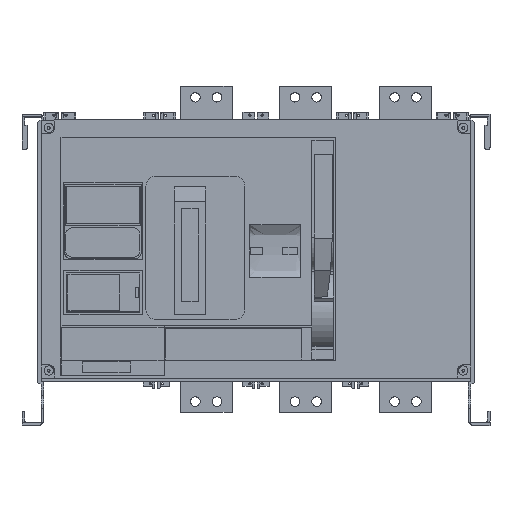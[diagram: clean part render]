
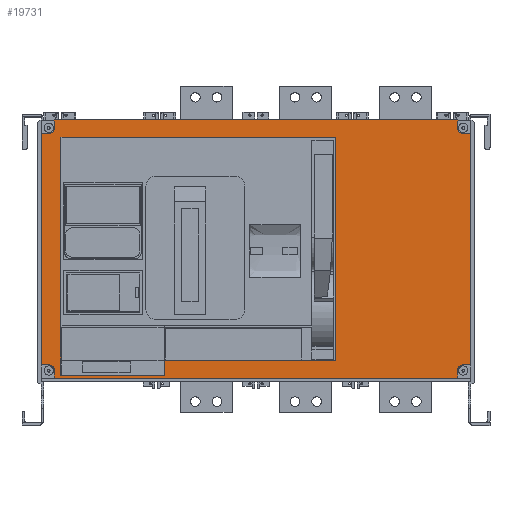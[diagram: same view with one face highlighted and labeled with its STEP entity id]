
A CAD part, top view. The second image highlights one B-rep face of the part: STEP entity #19731.
In plain terms, the highlighted planar face has unit normal (0, 0, 1).
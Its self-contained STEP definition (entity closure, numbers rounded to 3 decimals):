
#476=DIRECTION('',(0.,1.,0.));
#477=VECTOR('',#476,267.);
#478=CARTESIAN_POINT('',(518.,69.5,356.));
#479=LINE('',#478,#477);
#504=DIRECTION('',(1.,0.,0.));
#505=VECTOR('',#504,465.);
#506=CARTESIAN_POINT('',(37.5,54.,356.));
#507=LINE('',#506,#505);
#544=DIRECTION('',(0.,-1.,0.));
#545=VECTOR('',#544,267.);
#546=CARTESIAN_POINT('',(22.,336.5,356.));
#547=LINE('',#546,#545);
#572=DIRECTION('',(-1.,0.,0.));
#573=VECTOR('',#572,465.);
#574=CARTESIAN_POINT('',(502.5,352.,356.));
#575=LINE('',#574,#573);
#603=DIRECTION('',(-1.,0.,0.));
#604=VECTOR('',#603,9.);
#605=CARTESIAN_POINT('',(518.,336.5,356.));
#606=LINE('',#605,#604);
#611=CARTESIAN_POINT('',(31.,343.,356.));
#612=DIRECTION('',(0.,0.,1.));
#613=DIRECTION('',(0.,-1.,0.));
#614=AXIS2_PLACEMENT_3D('',#611,#612,#613);
#616=DIRECTION('',(0.,-1.,0.));
#617=VECTOR('',#616,9.);
#618=CARTESIAN_POINT('',(502.5,352.,356.));
#619=LINE('',#618,#617);
#620=CARTESIAN_POINT('',(509.,343.,356.));
#621=DIRECTION('',(0.,0.,1.));
#622=DIRECTION('',(-1.,0.,0.));
#623=AXIS2_PLACEMENT_3D('',#620,#621,#622);
#625=DIRECTION('',(-1.,0.,0.));
#626=VECTOR('',#625,9.);
#627=CARTESIAN_POINT('',(518.,69.5,356.));
#628=LINE('',#627,#626);
#629=CARTESIAN_POINT('',(509.,63.,356.));
#630=DIRECTION('',(0.,0.,1.));
#631=DIRECTION('',(0.,1.,0.));
#632=AXIS2_PLACEMENT_3D('',#629,#630,#631);
#634=DIRECTION('',(0.,1.,0.));
#635=VECTOR('',#634,9.);
#636=CARTESIAN_POINT('',(37.5,54.,356.));
#637=LINE('',#636,#635);
#638=CARTESIAN_POINT('',(31.,63.,356.));
#639=DIRECTION('',(0.,0.,1.));
#640=DIRECTION('',(1.,0.,0.));
#641=AXIS2_PLACEMENT_3D('',#638,#639,#640);
#643=DIRECTION('',(1.,0.,0.));
#644=VECTOR('',#643,9.);
#645=CARTESIAN_POINT('',(22.,336.5,356.));
#646=LINE('',#645,#644);
#647=DIRECTION('',(1.,0.,0.));
#648=VECTOR('',#647,197.024);
#649=CARTESIAN_POINT('',(164.727,74.209,356.));
#650=LINE('',#649,#648);
#651=DIRECTION('',(0.,1.,0.));
#652=VECTOR('',#651,40.54);
#653=CARTESIAN_POINT('',(361.751,74.209,356.));
#654=LINE('',#653,#652);
#655=DIRECTION('',(1.,0.,0.));
#656=VECTOR('',#655,0.209);
#657=CARTESIAN_POINT('',(361.751,114.75,356.));
#658=LINE('',#657,#656);
#659=DIRECTION('',(0.,1.,0.));
#660=VECTOR('',#659,217.25);
#661=CARTESIAN_POINT('',(361.96,114.75,356.));
#662=LINE('',#661,#660);
#663=DIRECTION('',(-1.,0.,0.));
#664=VECTOR('',#663,316.96);
#665=CARTESIAN_POINT('',(361.96,332.,356.));
#666=LINE('',#665,#664);
#667=DIRECTION('',(0.,-1.,0.));
#668=VECTOR('',#667,217.25);
#669=CARTESIAN_POINT('',(45.,332.,356.));
#670=LINE('',#669,#668);
#671=DIRECTION('',(0.,-1.,0.));
#672=VECTOR('',#671,57.24);
#673=CARTESIAN_POINT('',(45.,114.75,356.));
#674=LINE('',#673,#672);
#675=DIRECTION('',(1.,0.,0.));
#676=VECTOR('',#675,119.727);
#677=CARTESIAN_POINT('',(45.,57.51,356.));
#678=LINE('',#677,#676);
#679=DIRECTION('',(0.,1.,0.));
#680=VECTOR('',#679,16.7);
#681=CARTESIAN_POINT('',(164.727,57.51,356.));
#682=LINE('',#681,#680);
#714=DIRECTION('',(0.,-1.,0.));
#715=VECTOR('',#714,9.);
#716=CARTESIAN_POINT('',(37.5,352.,356.));
#717=LINE('',#716,#715);
#1063=DIRECTION('',(0.,1.,0.));
#1064=VECTOR('',#1063,9.);
#1065=CARTESIAN_POINT('',(502.5,54.,356.));
#1066=LINE('',#1065,#1064);
#1404=DIRECTION('',(1.,0.,0.));
#1405=VECTOR('',#1404,9.);
#1406=CARTESIAN_POINT('',(22.,69.5,356.));
#1407=LINE('',#1406,#1405);
#15133=CARTESIAN_POINT('',(518.,69.5,356.));
#15134=VERTEX_POINT('',#15133);
#15135=CARTESIAN_POINT('',(518.,336.5,356.));
#15136=VERTEX_POINT('',#15135);
#15165=CARTESIAN_POINT('',(37.5,54.,356.));
#15166=VERTEX_POINT('',#15165);
#15167=CARTESIAN_POINT('',(502.5,54.,356.));
#15168=VERTEX_POINT('',#15167);
#15273=CARTESIAN_POINT('',(164.727,74.209,356.));
#15274=VERTEX_POINT('',#15273);
#15275=CARTESIAN_POINT('',(164.727,57.51,356.));
#15276=VERTEX_POINT('',#15275);
#15403=CARTESIAN_POINT('',(45.,114.75,356.));
#15404=VERTEX_POINT('',#15403);
#15411=CARTESIAN_POINT('',(45.,57.51,356.));
#15412=VERTEX_POINT('',#15411);
#15653=CARTESIAN_POINT('',(31.,336.5,356.));
#15654=CARTESIAN_POINT('',(37.5,343.,356.));
#15655=VERTEX_POINT('',#15653);
#15656=VERTEX_POINT('',#15654);
#15657=CARTESIAN_POINT('',(37.5,352.,356.));
#15658=VERTEX_POINT('',#15657);
#15659=CARTESIAN_POINT('',(502.5,352.,356.));
#15660=VERTEX_POINT('',#15659);
#15661=CARTESIAN_POINT('',(502.5,343.,356.));
#15662=VERTEX_POINT('',#15661);
#15663=CARTESIAN_POINT('',(509.,336.5,356.));
#15664=VERTEX_POINT('',#15663);
#15665=CARTESIAN_POINT('',(509.,69.5,356.));
#15666=VERTEX_POINT('',#15665);
#15667=CARTESIAN_POINT('',(502.5,63.,356.));
#15668=VERTEX_POINT('',#15667);
#15669=CARTESIAN_POINT('',(37.5,63.,356.));
#15670=VERTEX_POINT('',#15669);
#15671=CARTESIAN_POINT('',(31.,69.5,356.));
#15672=VERTEX_POINT('',#15671);
#15673=CARTESIAN_POINT('',(22.,69.5,356.));
#15674=VERTEX_POINT('',#15673);
#15675=CARTESIAN_POINT('',(22.,336.5,356.));
#15676=VERTEX_POINT('',#15675);
#15677=CARTESIAN_POINT('',(361.751,74.209,356.));
#15678=VERTEX_POINT('',#15677);
#15679=CARTESIAN_POINT('',(361.751,114.75,356.));
#15680=VERTEX_POINT('',#15679);
#15681=CARTESIAN_POINT('',(361.96,114.75,356.));
#15682=VERTEX_POINT('',#15681);
#15683=CARTESIAN_POINT('',(361.96,332.,356.));
#15684=VERTEX_POINT('',#15683);
#15685=CARTESIAN_POINT('',(45.,332.,356.));
#15686=VERTEX_POINT('',#15685);
#19677=CARTESIAN_POINT('',(22.,352.,356.));
#19678=DIRECTION('',(0.,0.,1.));
#19679=DIRECTION('',(1.,0.,0.));
#19680=AXIS2_PLACEMENT_3D('',#19677,#19678,#19679);
#19681=PLANE('',#19680);
#19683=ORIENTED_EDGE('',*,*,#19682,.T.);
#19685=ORIENTED_EDGE('',*,*,#19684,.F.);
#19686=ORIENTED_EDGE('',*,*,#19608,.F.);
#19688=ORIENTED_EDGE('',*,*,#19687,.T.);
#19690=ORIENTED_EDGE('',*,*,#19689,.T.);
#19691=ORIENTED_EDGE('',*,*,#19661,.F.);
#19692=ORIENTED_EDGE('',*,*,#19480,.F.);
#19694=ORIENTED_EDGE('',*,*,#19693,.T.);
#19696=ORIENTED_EDGE('',*,*,#19695,.T.);
#19698=ORIENTED_EDGE('',*,*,#19697,.F.);
#19699=ORIENTED_EDGE('',*,*,#19536,.F.);
#19701=ORIENTED_EDGE('',*,*,#19700,.T.);
#19703=ORIENTED_EDGE('',*,*,#19702,.T.);
#19705=ORIENTED_EDGE('',*,*,#19704,.F.);
#19706=ORIENTED_EDGE('',*,*,#19577,.F.);
#19708=ORIENTED_EDGE('',*,*,#19707,.T.);
#19709=EDGE_LOOP('',(#19683,#19685,#19686,#19688,#19690,#19691,#19692,#19694,
#19696,#19698,#19699,#19701,#19703,#19705,#19706,#19708));
#19710=FACE_OUTER_BOUND('',#19709,.F.);
#19712=ORIENTED_EDGE('',*,*,#19711,.T.);
#19714=ORIENTED_EDGE('',*,*,#19713,.T.);
#19716=ORIENTED_EDGE('',*,*,#19715,.T.);
#19718=ORIENTED_EDGE('',*,*,#19717,.T.);
#19720=ORIENTED_EDGE('',*,*,#19719,.T.);
#19722=ORIENTED_EDGE('',*,*,#19721,.T.);
#19724=ORIENTED_EDGE('',*,*,#19723,.T.);
#19726=ORIENTED_EDGE('',*,*,#19725,.T.);
#19728=ORIENTED_EDGE('',*,*,#19727,.T.);
#19729=EDGE_LOOP('',(#19712,#19714,#19716,#19718,#19720,#19722,#19724,#19726,
#19728));
#19730=FACE_BOUND('',#19729,.F.);
#615=CIRCLE('',#614,6.5);
#624=CIRCLE('',#623,6.5);
#633=CIRCLE('',#632,6.5);
#642=CIRCLE('',#641,6.5);
#19480=EDGE_CURVE('',#15134,#15136,#479,.T.);
#19536=EDGE_CURVE('',#15166,#15168,#507,.T.);
#19577=EDGE_CURVE('',#15676,#15674,#547,.T.);
#19608=EDGE_CURVE('',#15660,#15658,#575,.T.);
#19661=EDGE_CURVE('',#15136,#15664,#606,.T.);
#19682=EDGE_CURVE('',#15655,#15656,#615,.T.);
#19684=EDGE_CURVE('',#15658,#15656,#717,.T.);
#19687=EDGE_CURVE('',#15660,#15662,#619,.T.);
#19689=EDGE_CURVE('',#15662,#15664,#624,.T.);
#19693=EDGE_CURVE('',#15134,#15666,#628,.T.);
#19695=EDGE_CURVE('',#15666,#15668,#633,.T.);
#19697=EDGE_CURVE('',#15168,#15668,#1066,.T.);
#19700=EDGE_CURVE('',#15166,#15670,#637,.T.);
#19702=EDGE_CURVE('',#15670,#15672,#642,.T.);
#19704=EDGE_CURVE('',#15674,#15672,#1407,.T.);
#19707=EDGE_CURVE('',#15676,#15655,#646,.T.);
#19711=EDGE_CURVE('',#15274,#15678,#650,.T.);
#19713=EDGE_CURVE('',#15678,#15680,#654,.T.);
#19715=EDGE_CURVE('',#15680,#15682,#658,.T.);
#19717=EDGE_CURVE('',#15682,#15684,#662,.T.);
#19719=EDGE_CURVE('',#15684,#15686,#666,.T.);
#19721=EDGE_CURVE('',#15686,#15404,#670,.T.);
#19723=EDGE_CURVE('',#15404,#15412,#674,.T.);
#19725=EDGE_CURVE('',#15412,#15276,#678,.T.);
#19727=EDGE_CURVE('',#15276,#15274,#682,.T.);
#19731=ADVANCED_FACE('',(#19710,#19730),#19681,.T.);
